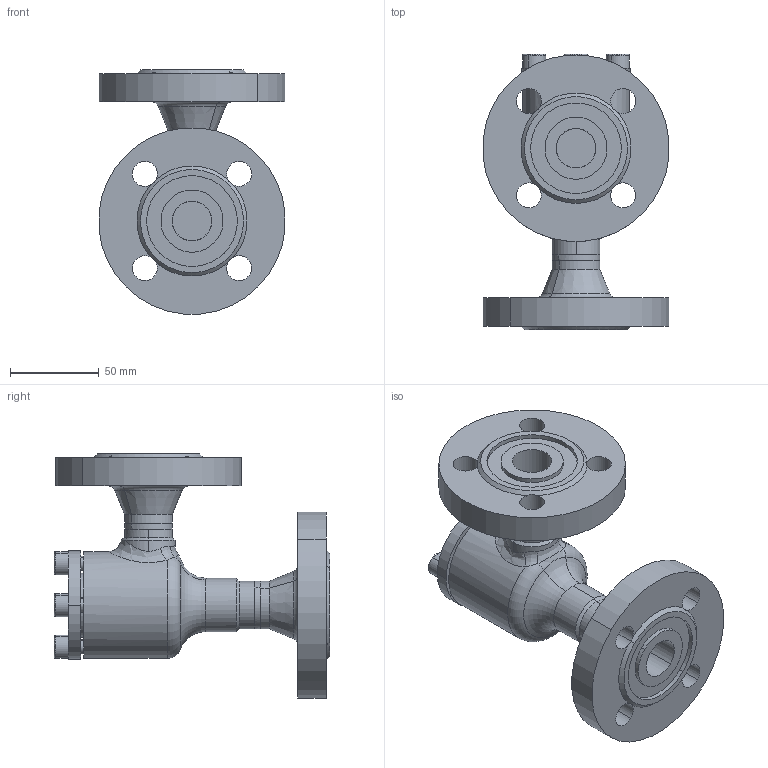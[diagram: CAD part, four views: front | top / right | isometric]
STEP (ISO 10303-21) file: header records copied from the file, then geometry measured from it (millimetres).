
FILE_DESCRIPTION (( 'STEP AP214' ), '1' );
FILE_NAME ('SS52420D11-DN020_DIN-FL-N_PS40.STEP', '2006-05-02T05:54:18', ( 'Herr Grams' ), ( 'AWP GmbH' ), 'SwSTEP 2.0', 'SolidWorks 2002296', '' );
FILE_SCHEMA (( 'AUTOMOTIVE_DESIGN' ));
Length unit declared in the file: millimetre
Products named in the file (9): SS52420D11-DN020_DIN-FL-N_PS40; Gehäuse-kpl16420-DN020_DIN_PS40_Standard; Gehäuse16400-DN020_Standard; bead16420-Geh-020-2_Standard; bead16420-Geh-020-1_Standard; Flansch-DIN2635-Nut_PS40_DIN-Flansch-DN020_PS40-Nut; SS52300K10_Deck+Schr-DN10-20_Standard; Deckel52300K10-DN10-20_Standard; Zylinderschraube-DIN912_M 8x 16
Assembly tree (12 placements, depth 3):
  SS52420D11-DN020_DIN-FL-N_PS40
    Gehäuse-kpl16420-DN020_DIN_PS40_Standard
      Flansch-DIN2635-Nut_PS40_DIN-Flansch-DN020_PS40-Nut  x2
      Gehäuse16400-DN020_Standard
      bead16420-Geh-020-2_Standard
      bead16420-Geh-020-1_Standard
    SS52300K10_Deck+Schr-DN10-20_Standard
      Zylinderschraube-DIN912_M 8x 16  x4
      Deckel52300K10-DN10-20_Standard
Bounding box: 104.6 x 155 x 137.3 mm (x, y, z)
Volume: 463233.7 mm3; surface area: 95939.1 mm2
Topology: 10 solids, 10 shells, 216 faces, 495 edges, 309 vertices
Faces by surface type: cylinder 85, plane 64, cone 37, torus 15, bspline 15
Entity records: 15641 total; most frequent: CARTESIAN_POINT 12098, DIRECTION 652, ORIENTED_EDGE 598, EDGE_CURVE 299, AXIS2_PLACEMENT_3D 278, VERTEX_POINT 185, EDGE_LOOP 156, CIRCLE 146
